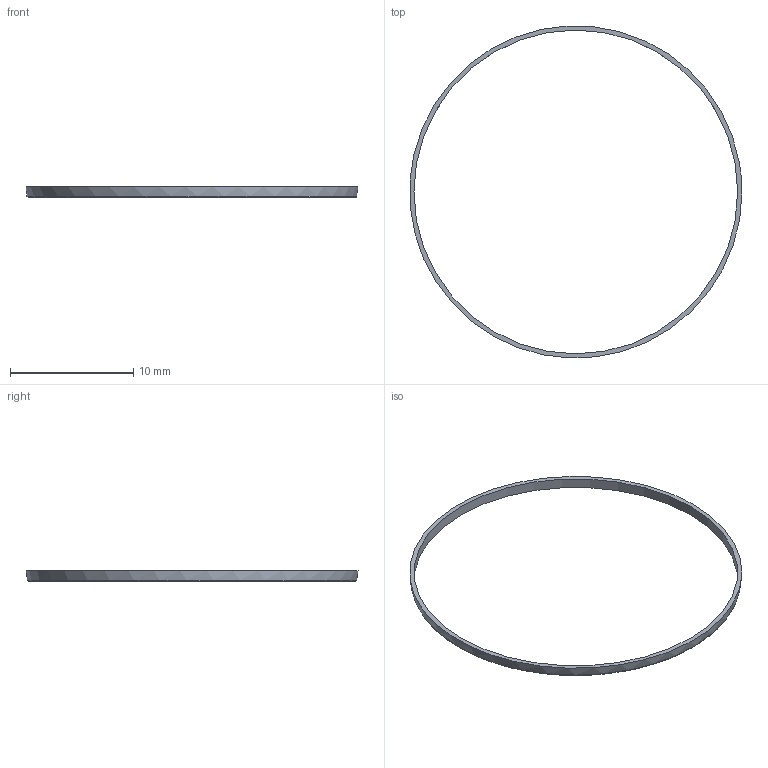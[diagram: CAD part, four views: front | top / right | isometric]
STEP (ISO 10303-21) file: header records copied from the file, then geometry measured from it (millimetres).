
FILE_DESCRIPTION(('FreeCAD Model'),'2;1');
FILE_NAME('Open CASCADE Shape Model','2026-10-23T21:15:58',('FreeCAD'),( 'FreeCAD'),'Open CASCADE STEP processor 7.8','FreeCAD','Unknown');
FILE_SCHEMA(('AUTOMOTIVE_DESIGN { 1 0 10303 214 1 1 1 1 }'));
Length unit declared in the file: millimetre
Products named in the file (1): Open CASCADE STEP translator 7.8 27
Bounding box: 26.94 x 26.95 x 0.85 mm (x, y, z)
Volume: 21 mm3; surface area: 188.4 mm2
Topology: 1 solids, 1 shells, 5 faces, 8 edges, 5 vertices
Faces by surface type: plane 2, bspline 1, cylinder 1, revolution 1
Full cylindrical faces by diameter (mm): 26.28 x1
Entity records: 474 total; most frequent: CARTESIAN_POINT 380, ORIENTED_EDGE 16, DIRECTION 14, EDGE_CURVE 8, FACE_BOUND 7, EDGE_LOOP 7, AXIS2_PLACEMENT_3D 6, ADVANCED_FACE 5
